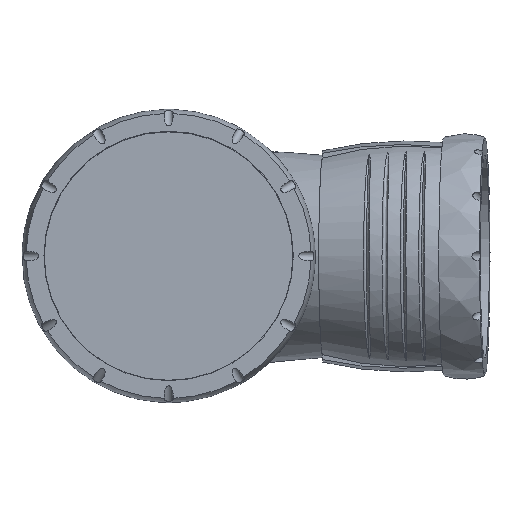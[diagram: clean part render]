
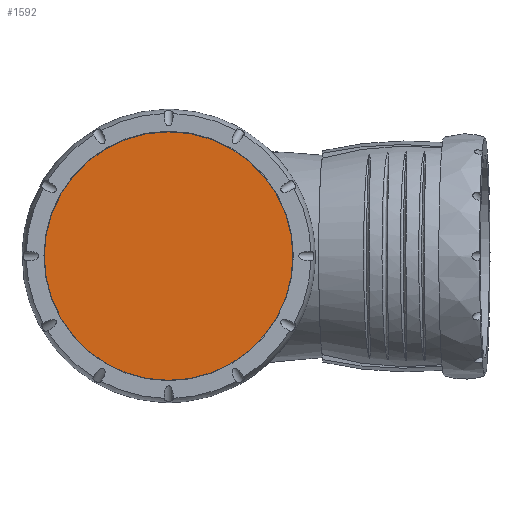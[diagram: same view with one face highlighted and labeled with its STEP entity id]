
A CAD part, top view. The second image highlights one B-rep face of the part: STEP entity #1592.
In plain terms, the highlighted planar face has unit normal (0, 0, 1).
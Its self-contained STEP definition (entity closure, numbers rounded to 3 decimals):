
#219=PLANE('',#1715);
#294=FACE_OUTER_BOUND('',#400,.T.);
#400=EDGE_LOOP('',(#1019));
#535=CIRCLE('',#1716,55.5);
#609=VERTEX_POINT('',#2466);
#779=EDGE_CURVE('',#609,#609,#535,.T.);
#1019=ORIENTED_EDGE('',*,*,#779,.T.);
#1592=ADVANCED_FACE('',(#294),#219,.T.);
#1715=AXIS2_PLACEMENT_3D('',#2465,#1895,#1896);
#1716=AXIS2_PLACEMENT_3D('',#2467,#1897,#1898);
#1895=DIRECTION('center_axis',(0.,0.,
1.));
#1896=DIRECTION('ref_axis',(0.,1.,0.));
#1897=DIRECTION('center_axis',(0.,0.,
1.));
#1898=DIRECTION('ref_axis',(0.,1.,0.));
#2465=CARTESIAN_POINT('Origin',(0.,0.,
215.4));
#2466=CARTESIAN_POINT('',(-55.5,0.,215.4));
#2467=CARTESIAN_POINT('Origin',(0.,0.,
215.4));
